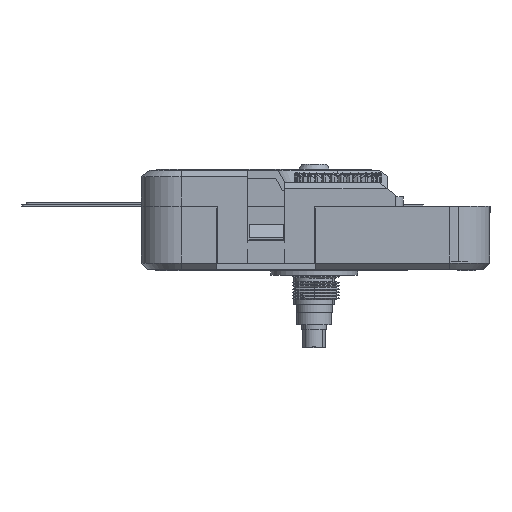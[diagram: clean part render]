
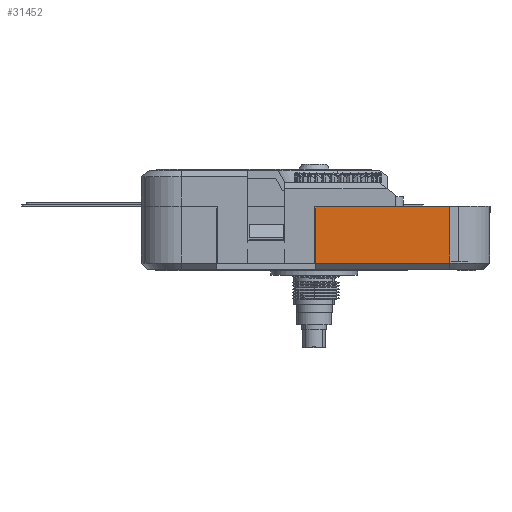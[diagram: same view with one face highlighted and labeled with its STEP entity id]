
A CAD part, left-side view. The second image highlights one B-rep face of the part: STEP entity #31452.
In plain terms, the highlighted planar face has unit normal (-1, 0, 0).
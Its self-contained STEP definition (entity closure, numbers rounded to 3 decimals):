
#1008=FACE_OUTER_BOUND('',#2774,.T.);
#2774=EDGE_LOOP('',(#20742,#20743,#20744,#20745,#20746));
#5211=LINE('',#44274,#9055);
#5256=LINE('',#44380,#9100);
#5258=LINE('',#44384,#9102);
#5259=LINE('',#44386,#9103);
#5260=LINE('',#44387,#9104);
#9055=VECTOR('',#35737,21.4);
#9100=VECTOR('',#35806,0.424);
#9102=VECTOR('',#35810,8.9);
#9103=VECTOR('',#35811,21.7);
#9104=VECTOR('',#35812,9.2);
#12899=VERTEX_POINT('',#44271);
#12900=VERTEX_POINT('',#44273);
#12949=VERTEX_POINT('',#44379);
#12950=VERTEX_POINT('',#44383);
#12951=VERTEX_POINT('',#44385);
#15969=EDGE_CURVE('',#12900,#12899,#5211,.T.);
#16022=EDGE_CURVE('',#12949,#12899,#5256,.T.);
#16024=EDGE_CURVE('',#12950,#12949,#5258,.T.);
#16025=EDGE_CURVE('',#12951,#12950,#5259,.T.);
#16026=EDGE_CURVE('',#12951,#12900,#5260,.T.);
#20742=ORIENTED_EDGE('',*,*,#16022,.F.);
#20743=ORIENTED_EDGE('',*,*,#16024,.F.);
#20744=ORIENTED_EDGE('',*,*,#16025,.F.);
#20745=ORIENTED_EDGE('',*,*,#16026,.T.);
#20746=ORIENTED_EDGE('',*,*,#15969,.T.);
#30104=PLANE('',#33396);
#31452=ADVANCED_FACE('',(#1008),#30104,.T.);
#33396=AXIS2_PLACEMENT_3D('',#44382,#35808,#35809);
#35737=DIRECTION('',(0.,1.,0.));
#35806=DIRECTION('',(0.,-0.707,0.707));
#35808=DIRECTION('center_axis',(-1.,0.,0.));
#35809=DIRECTION('ref_axis',(0.,-1.,0.));
#35810=DIRECTION('',(0.,0.,1.));
#35811=DIRECTION('',(0.,1.,0.));
#35812=DIRECTION('',(0.,0.,1.));
#44271=CARTESIAN_POINT('',(-28.,-0.3,0.));
#44273=CARTESIAN_POINT('',(-28.,-21.7,0.));
#44274=CARTESIAN_POINT('',(-28.,-21.7,0.));
#44379=CARTESIAN_POINT('',(-28.,0.,-0.3));
#44380=CARTESIAN_POINT('',(-28.,0.,-0.3));
#44382=CARTESIAN_POINT('Origin',(-28.,0.,0.));
#44383=CARTESIAN_POINT('',(-28.,0.,-9.2));
#44384=CARTESIAN_POINT('',(-28.,0.,-9.2));
#44385=CARTESIAN_POINT('',(-28.,-21.7,-9.2));
#44386=CARTESIAN_POINT('',(-28.,-21.7,-9.2));
#44387=CARTESIAN_POINT('',(-28.,-21.7,-9.2));
